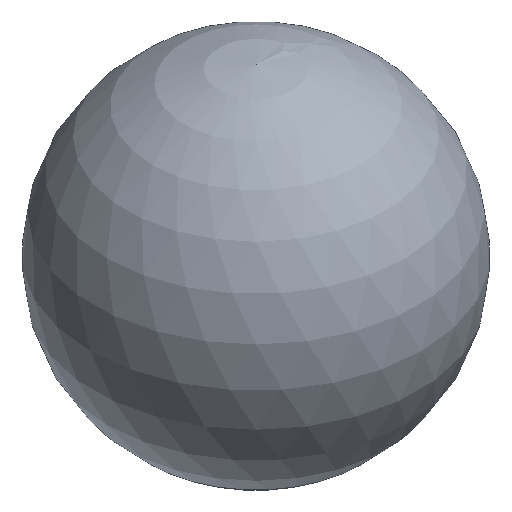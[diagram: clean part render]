
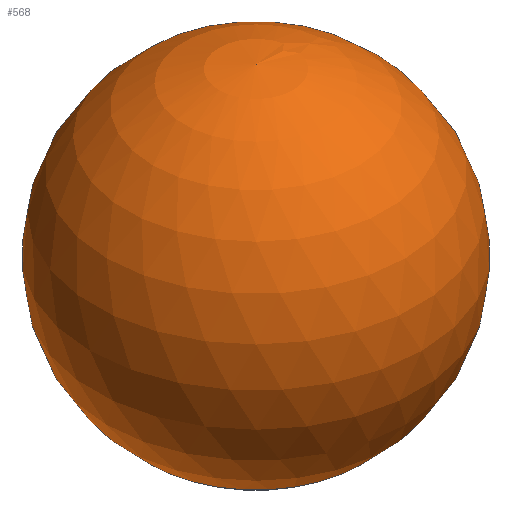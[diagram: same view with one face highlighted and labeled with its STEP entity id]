
A CAD part, isometric view. The second image highlights one B-rep face of the part: STEP entity #568.
In plain terms, the highlighted spherical face has radius 12.5 mm.
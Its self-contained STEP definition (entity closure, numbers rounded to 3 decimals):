
#411 = CYLINDRICAL_SURFACE('',#412,7.845);
#412 = AXIS2_PLACEMENT_3D('',#413,#414,#415);
#413 = CARTESIAN_POINT('',(0.,0.,1.25));
#414 = DIRECTION('',(-0.,-0.,-1.));
#415 = DIRECTION('',(1.,0.,0.));
#483 = VERTEX_POINT('',#484);
#484 = CARTESIAN_POINT('',(7.845,0.,
    1.234));
#507 = EDGE_CURVE('',#483,#483,#508,.T.);
#508 = SURFACE_CURVE('',#509,(#514,#521),.PCURVE_S1.);
#509 = CIRCLE('',#510,7.845);
#510 = AXIS2_PLACEMENT_3D('',#511,#512,#513);
#511 = CARTESIAN_POINT('',(0.,0.,1.234));
#512 = DIRECTION('',(0.,-0.,-1.));
#513 = DIRECTION('',(0.,1.,-0.));
#514 = PCURVE('',#411,#515);
#515 = DEFINITIONAL_REPRESENTATION('',(#516),#520);
#516 = LINE('',#517,#518);
#517 = CARTESIAN_POINT('',(-7.854,0.016));
#518 = VECTOR('',#519,1.);
#519 = DIRECTION('',(1.,-0.));
#520 = ( GEOMETRIC_REPRESENTATION_CONTEXT(2) 
PARAMETRIC_REPRESENTATION_CONTEXT() REPRESENTATION_CONTEXT('2D SPACE',''
  ) );
#521 = PCURVE('',#522,#527);
#522 = SPHERICAL_SURFACE('',#523,12.5);
#523 = AXIS2_PLACEMENT_3D('',#524,#525,#526);
#524 = CARTESIAN_POINT('',(0.,0.,10.966));
#525 = DIRECTION('',(0.,0.,1.));
#526 = DIRECTION('',(1.,0.,-0.));
#527 = DEFINITIONAL_REPRESENTATION('',(#528),#532);
#528 = LINE('',#529,#530);
#529 = CARTESIAN_POINT('',(7.854,-0.892));
#530 = VECTOR('',#531,1.);
#531 = DIRECTION('',(-1.,0.));
#532 = ( GEOMETRIC_REPRESENTATION_CONTEXT(2) 
PARAMETRIC_REPRESENTATION_CONTEXT() REPRESENTATION_CONTEXT('2D SPACE',''
  ) );
#568 = ADVANCED_FACE('',(#569),#522,.T.);
#569 = FACE_BOUND('',#570,.T.);
#570 = EDGE_LOOP('',(#571,#572,#596));
#571 = ORIENTED_EDGE('',*,*,#507,.F.);
#572 = ORIENTED_EDGE('',*,*,#573,.T.);
#573 = EDGE_CURVE('',#483,#574,#576,.T.);
#574 = VERTEX_POINT('',#575);
#575 = CARTESIAN_POINT('',(0.,0.,
    23.466));
#576 = SEAM_CURVE('',#577,(#582,#589),.PCURVE_S1.);
#577 = CIRCLE('',#578,12.5);
#578 = AXIS2_PLACEMENT_3D('',#579,#580,#581);
#579 = CARTESIAN_POINT('',(0.,0.,10.966));
#580 = DIRECTION('',(0.,-1.,0.));
#581 = DIRECTION('',(1.,0.,0.));
#582 = PCURVE('',#522,#583);
#583 = DEFINITIONAL_REPRESENTATION('',(#584),#588);
#584 = LINE('',#585,#586);
#585 = CARTESIAN_POINT('',(0.,-6.283));
#586 = VECTOR('',#587,1.);
#587 = DIRECTION('',(0.,1.));
#588 = ( GEOMETRIC_REPRESENTATION_CONTEXT(2) 
PARAMETRIC_REPRESENTATION_CONTEXT() REPRESENTATION_CONTEXT('2D SPACE',''
  ) );
#589 = PCURVE('',#522,#590);
#590 = DEFINITIONAL_REPRESENTATION('',(#591),#595);
#591 = LINE('',#592,#593);
#592 = CARTESIAN_POINT('',(6.283,-6.283));
#593 = VECTOR('',#594,1.);
#594 = DIRECTION('',(0.,1.));
#595 = ( GEOMETRIC_REPRESENTATION_CONTEXT(2) 
PARAMETRIC_REPRESENTATION_CONTEXT() REPRESENTATION_CONTEXT('2D SPACE',''
  ) );
#596 = ORIENTED_EDGE('',*,*,#573,.F.);
